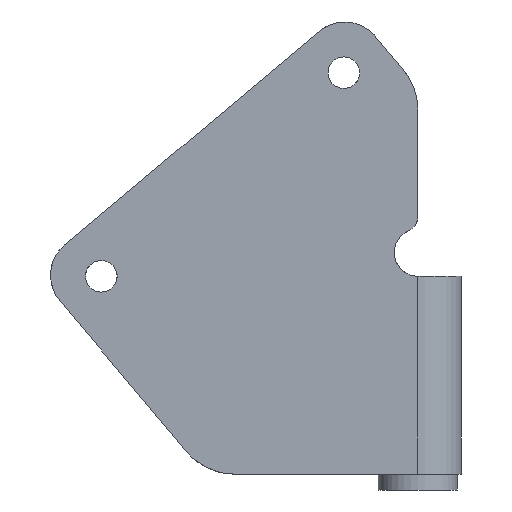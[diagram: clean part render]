
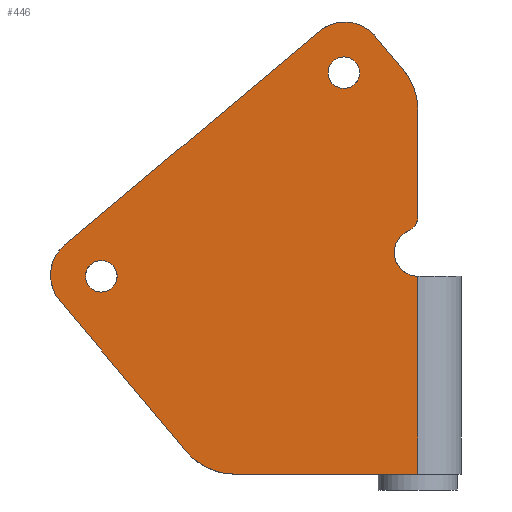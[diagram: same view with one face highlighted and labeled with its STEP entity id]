
A CAD part, front view. The second image highlights one B-rep face of the part: STEP entity #446.
In plain terms, the highlighted planar face has unit normal (0, -1, 0).
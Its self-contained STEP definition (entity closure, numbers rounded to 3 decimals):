
#63=CARTESIAN_POINT('Vertex',(0.,-5.5,45.981)) ;
#66=CARTESIAN_POINT('Line Origine',(0.,-5.5,39.282)) ;
#70=CARTESIAN_POINT('Vertex',(0.,-5.5,32.583)) ;
#103=CARTESIAN_POINT('Vertex',(-1.872,-5.5,51.124)) ;
#106=CARTESIAN_POINT('Axis2P3D Location',(-8.,-5.5,45.981)) ;
#134=CARTESIAN_POINT('Vertex',(-5.405,-5.5,55.334)) ;
#137=CARTESIAN_POINT('Line Origine',(-3.638,-5.5,53.229)) ;
#163=CARTESIAN_POINT('Vertex',(-12.449,-5.5,55.951)) ;
#168=CARTESIAN_POINT('Axis2P3D Location',(-9.235,-5.5,52.12)) ;
#196=CARTESIAN_POINT('Vertex',(-44.623,-5.5,28.953)) ;
#199=CARTESIAN_POINT('Line Origine',(-28.536,-5.5,42.452)) ;
#227=CARTESIAN_POINT('Vertex',(-45.239,-5.5,21.909)) ;
#230=CARTESIAN_POINT('Axis2P3D Location',(-41.409,-5.5,25.123)) ;
#258=CARTESIAN_POINT('Vertex',(-29.253,-5.5,2.858)) ;
#261=CARTESIAN_POINT('Line Origine',(-37.246,-5.5,12.384)) ;
#289=CARTESIAN_POINT('Vertex',(-23.124,-5.5,0.)) ;
#292=CARTESIAN_POINT('Axis2P3D Location',(-23.124,-5.5,8.)) ;
#325=CARTESIAN_POINT('Vertex',(0.,-5.5,0.)) ;
#328=CARTESIAN_POINT('Line Origine',(-11.562,-5.5,0.)) ;
#340=CARTESIAN_POINT('Axis2P3D Location',(0.,-5.5,0.)) ;
#346=CARTESIAN_POINT('Control Point',(0.,-5.5,25.)) ;
#347=CARTESIAN_POINT('Control Point',(-0.819,-5.5,25.)) ;
#348=CARTESIAN_POINT('Control Point',(-1.638,-5.5,25.279)) ;
#349=CARTESIAN_POINT('Control Point',(-2.328,-5.5,25.841)) ;
#350=CARTESIAN_POINT('Control Point',(-3.21,-5.5,27.33)) ;
#351=CARTESIAN_POINT('Control Point',(-2.998,-5.5,29.048)) ;
#352=CARTESIAN_POINT('Control Point',(-2.589,-5.5,29.838)) ;
#353=CARTESIAN_POINT('Control Point',(-1.951,-5.5,30.422)) ;
#354=CARTESIAN_POINT('Control Point',(-1.2,-5.5,30.75)) ;
#355=CARTESIAN_POINT('Vertex',(0.,-5.5,25.)) ;
#357=CARTESIAN_POINT('Vertex',(-1.2,-5.5,30.75)) ;
#361=CARTESIAN_POINT('Control Point',(0.,-5.5,32.583)) ;
#362=CARTESIAN_POINT('Control Point',(0.,-5.5,32.003)) ;
#363=CARTESIAN_POINT('Control Point',(-0.225,-5.5,31.421)) ;
#364=CARTESIAN_POINT('Control Point',(-0.669,-5.5,30.981)) ;
#365=CARTESIAN_POINT('Control Point',(-1.2,-5.5,30.75)) ;
#367=CARTESIAN_POINT('Line Origine',(0.,-5.5,28.56)) ;
#387=CARTESIAN_POINT('Control Point',(-38.,-5.5,25.)) ;
#388=CARTESIAN_POINT('Control Point',(-38.,-5.5,24.372)) ;
#389=CARTESIAN_POINT('Control Point',(-38.247,-5.5,23.743)) ;
#390=CARTESIAN_POINT('Control Point',(-38.743,-5.5,23.247)) ;
#391=CARTESIAN_POINT('Control Point',(-40.,-5.5,22.753)) ;
#392=CARTESIAN_POINT('Control Point',(-41.257,-5.5,23.247)) ;
#393=CARTESIAN_POINT('Control Point',(-41.753,-5.5,23.743)) ;
#394=CARTESIAN_POINT('Control Point',(-42.,-5.5,24.372)) ;
#395=CARTESIAN_POINT('Control Point',(-42.,-5.5,25.)) ;
#396=CARTESIAN_POINT('Vertex',(-38.,-5.5,25.)) ;
#398=CARTESIAN_POINT('Vertex',(-42.,-5.5,25.)) ;
#402=CARTESIAN_POINT('Control Point',(-42.,-5.5,25.)) ;
#403=CARTESIAN_POINT('Control Point',(-42.,-5.5,25.628)) ;
#404=CARTESIAN_POINT('Control Point',(-41.753,-5.5,26.257)) ;
#405=CARTESIAN_POINT('Control Point',(-41.257,-5.5,26.753)) ;
#406=CARTESIAN_POINT('Control Point',(-40.,-5.5,27.247)) ;
#407=CARTESIAN_POINT('Control Point',(-38.743,-5.5,26.753)) ;
#408=CARTESIAN_POINT('Control Point',(-38.247,-5.5,26.257)) ;
#409=CARTESIAN_POINT('Control Point',(-38.,-5.5,25.628)) ;
#410=CARTESIAN_POINT('Control Point',(-38.,-5.5,25.)) ;
#417=CARTESIAN_POINT('Control Point',(-7.358,-5.5,50.712)) ;
#418=CARTESIAN_POINT('Control Point',(-7.358,-5.5,50.083)) ;
#419=CARTESIAN_POINT('Control Point',(-7.605,-5.5,49.455)) ;
#420=CARTESIAN_POINT('Control Point',(-8.102,-5.5,48.958)) ;
#421=CARTESIAN_POINT('Control Point',(-9.358,-5.5,48.465)) ;
#422=CARTESIAN_POINT('Control Point',(-10.615,-5.5,48.958)) ;
#423=CARTESIAN_POINT('Control Point',(-11.111,-5.5,49.455)) ;
#424=CARTESIAN_POINT('Control Point',(-11.358,-5.5,50.083)) ;
#425=CARTESIAN_POINT('Control Point',(-11.358,-5.5,50.712)) ;
#426=CARTESIAN_POINT('Vertex',(-7.358,-5.5,50.712)) ;
#428=CARTESIAN_POINT('Vertex',(-11.358,-5.5,50.712)) ;
#432=CARTESIAN_POINT('Control Point',(-11.358,-5.5,50.712)) ;
#433=CARTESIAN_POINT('Control Point',(-11.358,-5.5,51.34)) ;
#434=CARTESIAN_POINT('Control Point',(-11.111,-5.5,51.968)) ;
#435=CARTESIAN_POINT('Control Point',(-10.615,-5.5,52.465)) ;
#436=CARTESIAN_POINT('Control Point',(-9.358,-5.5,52.958)) ;
#437=CARTESIAN_POINT('Control Point',(-8.102,-5.5,52.465)) ;
#438=CARTESIAN_POINT('Control Point',(-7.605,-5.5,51.968)) ;
#439=CARTESIAN_POINT('Control Point',(-7.358,-5.5,51.34)) ;
#440=CARTESIAN_POINT('Control Point',(-7.358,-5.5,50.712)) ;
#67=DIRECTION('Vector Direction',(0.,0.,1.)) ;
#107=DIRECTION('Axis2P3D Direction',(0.,1.,-0.)) ;
#138=DIRECTION('Vector Direction',(-0.643,0.,0.766)) ;
#169=DIRECTION('Axis2P3D Direction',(0.,1.,-0.)) ;
#200=DIRECTION('Vector Direction',(-0.766,0.,-0.643)) ;
#231=DIRECTION('Axis2P3D Direction',(0.,1.,-0.)) ;
#262=DIRECTION('Vector Direction',(0.643,0.,-0.766)) ;
#293=DIRECTION('Axis2P3D Direction',(0.,1.,-0.)) ;
#329=DIRECTION('Vector Direction',(-1.,0.,0.)) ;
#341=DIRECTION('Axis2P3D Direction',(0.,1.,-0.)) ;
#342=DIRECTION('Axis2P3D XDirection',(-1.,0.,0.)) ;
#368=DIRECTION('Vector Direction',(0.,0.,1.)) ;
#108=AXIS2_PLACEMENT_3D('Circle Axis2P3D',#106,#107,$) ;
#170=AXIS2_PLACEMENT_3D('Circle Axis2P3D',#168,#169,$) ;
#232=AXIS2_PLACEMENT_3D('Circle Axis2P3D',#230,#231,$) ;
#294=AXIS2_PLACEMENT_3D('Circle Axis2P3D',#292,#293,$) ;
#343=AXIS2_PLACEMENT_3D('Plane Axis2P3D',#340,#341,#342) ;
#373=ORIENTED_EDGE('',*,*,#359,.T.) ;
#374=ORIENTED_EDGE('',*,*,#366,.F.) ;
#375=ORIENTED_EDGE('',*,*,#72,.T.) ;
#376=ORIENTED_EDGE('',*,*,#110,.F.) ;
#377=ORIENTED_EDGE('',*,*,#141,.T.) ;
#378=ORIENTED_EDGE('',*,*,#172,.F.) ;
#379=ORIENTED_EDGE('',*,*,#203,.T.) ;
#380=ORIENTED_EDGE('',*,*,#234,.F.) ;
#381=ORIENTED_EDGE('',*,*,#265,.T.) ;
#382=ORIENTED_EDGE('',*,*,#296,.F.) ;
#383=ORIENTED_EDGE('',*,*,#332,.F.) ;
#384=ORIENTED_EDGE('',*,*,#371,.T.) ;
#413=ORIENTED_EDGE('',*,*,#400,.T.) ;
#414=ORIENTED_EDGE('',*,*,#411,.T.) ;
#443=ORIENTED_EDGE('',*,*,#430,.T.) ;
#444=ORIENTED_EDGE('',*,*,#441,.T.) ;
#415=FACE_BOUND('',#412,.T.) ;
#445=FACE_BOUND('',#442,.T.) ;
#68=VECTOR('Line Direction',#67,1.) ;
#139=VECTOR('Line Direction',#138,1.) ;
#201=VECTOR('Line Direction',#200,1.) ;
#263=VECTOR('Line Direction',#262,1.) ;
#330=VECTOR('Line Direction',#329,1.) ;
#369=VECTOR('Line Direction',#368,1.) ;
#446=ADVANCED_FACE('Corps principal',(#385,#415,#445),#344,.F.) ;
#345=B_SPLINE_CURVE_WITH_KNOTS('',5,(#346,#347,#348,#349,#350,#351,#352,#353,#354),.UNSPECIFIED.,.F.,.U.,(6,3,6),(14.137,18.232,22.327),.UNSPECIFIED.) ;
#360=B_SPLINE_CURVE_WITH_KNOTS('',4,(#361,#362,#363,#364,#365),.UNSPECIFIED.,.F.,.U.,(5,5),(6.283,8.602),.UNSPECIFIED.) ;
#386=B_SPLINE_CURVE_WITH_KNOTS('',5,(#387,#388,#389,#390,#391,#392,#393,#394,#395),.UNSPECIFIED.,.F.,.U.,(6,3,6),(6.283,9.425,12.566),.UNSPECIFIED.) ;
#401=B_SPLINE_CURVE_WITH_KNOTS('',5,(#402,#403,#404,#405,#406,#407,#408,#409,#410),.UNSPECIFIED.,.F.,.U.,(6,3,6),(0.,3.142,6.283),.UNSPECIFIED.) ;
#416=B_SPLINE_CURVE_WITH_KNOTS('',5,(#417,#418,#419,#420,#421,#422,#423,#424,#425),.UNSPECIFIED.,.F.,.U.,(6,3,6),(6.283,9.425,12.566),.UNSPECIFIED.) ;
#431=B_SPLINE_CURVE_WITH_KNOTS('',5,(#432,#433,#434,#435,#436,#437,#438,#439,#440),.UNSPECIFIED.,.F.,.U.,(6,3,6),(0.,3.142,6.283),.UNSPECIFIED.) ;
#109=CIRCLE('generated circle',#108,8.) ;
#171=CIRCLE('generated circle',#170,5.) ;
#233=CIRCLE('generated circle',#232,5.) ;
#295=CIRCLE('generated circle',#294,8.) ;
#72=EDGE_CURVE('',#71,#64,#69,.T.) ;
#110=EDGE_CURVE('',#104,#64,#109,.T.) ;
#141=EDGE_CURVE('',#104,#135,#140,.T.) ;
#172=EDGE_CURVE('',#164,#135,#171,.T.) ;
#203=EDGE_CURVE('',#164,#197,#202,.T.) ;
#234=EDGE_CURVE('',#228,#197,#233,.T.) ;
#265=EDGE_CURVE('',#228,#259,#264,.T.) ;
#296=EDGE_CURVE('',#290,#259,#295,.T.) ;
#332=EDGE_CURVE('',#326,#290,#331,.T.) ;
#359=EDGE_CURVE('',#356,#358,#345,.T.) ;
#366=EDGE_CURVE('',#71,#358,#360,.T.) ;
#371=EDGE_CURVE('',#326,#356,#370,.T.) ;
#400=EDGE_CURVE('',#397,#399,#386,.T.) ;
#411=EDGE_CURVE('',#399,#397,#401,.T.) ;
#430=EDGE_CURVE('',#427,#429,#416,.T.) ;
#441=EDGE_CURVE('',#429,#427,#431,.T.) ;
#372=EDGE_LOOP('',(#373,#374,#375,#376,#377,#378,#379,#380,#381,#382,#383,#384)) ;
#412=EDGE_LOOP('',(#413,#414)) ;
#442=EDGE_LOOP('',(#443,#444)) ;
#385=FACE_OUTER_BOUND('',#372,.T.) ;
#69=LINE('Line',#66,#68) ;
#140=LINE('Line',#137,#139) ;
#202=LINE('Line',#199,#201) ;
#264=LINE('Line',#261,#263) ;
#331=LINE('Line',#328,#330) ;
#370=LINE('Line',#367,#369) ;
#344=PLANE('',#343) ;
#64=VERTEX_POINT('',#63) ;
#71=VERTEX_POINT('',#70) ;
#104=VERTEX_POINT('',#103) ;
#135=VERTEX_POINT('',#134) ;
#164=VERTEX_POINT('',#163) ;
#197=VERTEX_POINT('',#196) ;
#228=VERTEX_POINT('',#227) ;
#259=VERTEX_POINT('',#258) ;
#290=VERTEX_POINT('',#289) ;
#326=VERTEX_POINT('',#325) ;
#356=VERTEX_POINT('',#355) ;
#358=VERTEX_POINT('',#357) ;
#397=VERTEX_POINT('',#396) ;
#399=VERTEX_POINT('',#398) ;
#427=VERTEX_POINT('',#426) ;
#429=VERTEX_POINT('',#428) ;
